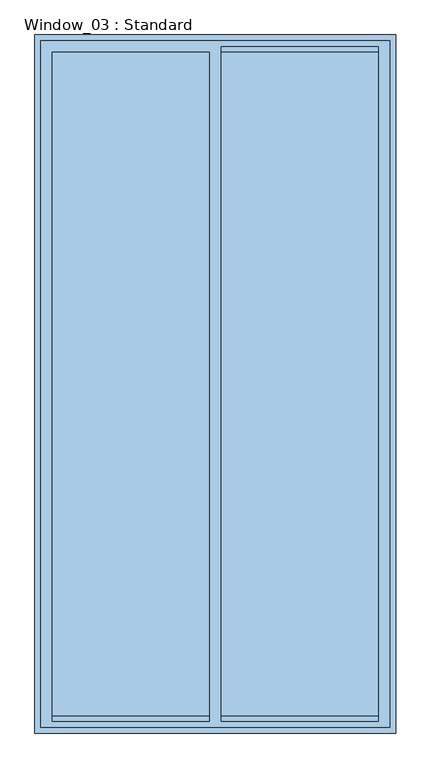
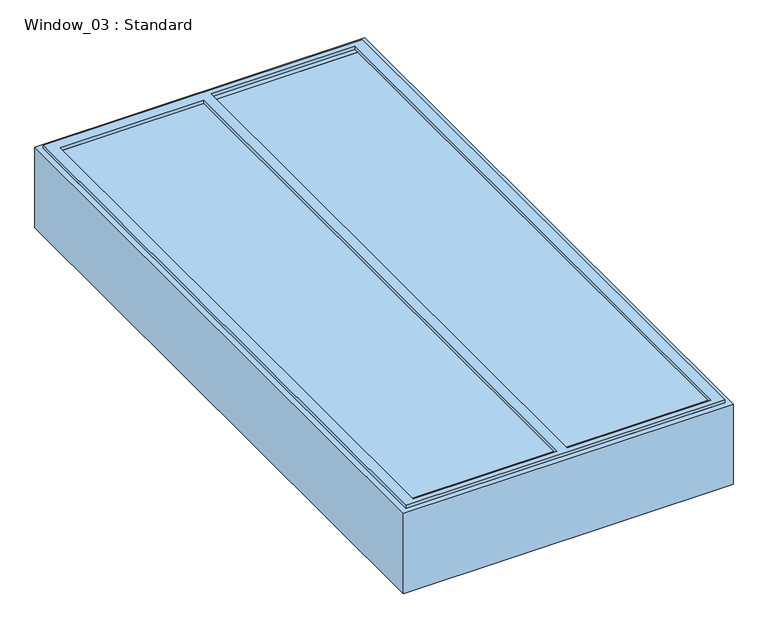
"""IFC4 building model written with IfcOpenShell, lengths in millimetres: window geometry, Window_03 : Standard."""

from ifc_helpers import new_model, si_unit, frame, origin, origin_with_axes, place, context, project, spatial, polyline, outline, extrude, source, transform, mapped, element, save


def window_03_standard_ac859b6b(model_context):
    return source(origin(), model_context, "Body", "SweptSolid", [
        extrude(outline(polyline([(-600.0, -1180.0), (-600.0, 1180.0), (600.0, 1180.0), (600.0, -1180.0), (-600.0, -1180.0)]), holes=[polyline([(-560.0, 1140.0), (-560.0, -1160.0), (-20.0, -1160.0), (-20.0, 1140.0), (-560.0, 1140.0)]), polyline([(20.0, 1160.0), (20.0, -1160.0), (560.0, -1160.0), (560.0, 1160.0), (20.0, 1160.0)])]), frame((0.0, 0.0, 315.094128), z_axis=(0.0, 0.0, 1.0), x_axis=(1.0, 0.0, 0.0)), (0.0, 0.0, 1.0), 17.0543259),
        extrude(outline(polyline([(-560.0, 1140.0), (560.0, 1140.0), (560.0, -1140.0), (-560.0, -1140.0), (-560.0, 1140.0)])), frame((0.0, 0.0, 315.094128), z_axis=(0.0, 0.0, 1.0), x_axis=(1.0, 0.0, 0.0)), (0.0, 0.0, 1.0), 4.905872),
        extrude(outline(polyline([(600.0, 1180.0), (600.0, -1180.0), (-600.0, -1180.0), (-600.0, 1180.0), (600.0, 1180.0)]), holes=[polyline([(-560.0, 1140.0), (-560.0, -1140.0), (560.0, -1140.0), (560.0, 1140.0), (-560.0, 1140.0)])]), frame((0.0, 0.0, 250.0), z_axis=(0.0, 0.0, 1.0), x_axis=(1.0, 0.0, 0.0)), (0.0, 0.0, 1.0), 70.0),
        extrude(outline(polyline([(620.0, 1200.0), (620.0, -1200.0), (-620.0, -1200.0), (-620.0, 1200.0), (620.0, 1200.0)]), holes=[polyline([(600.0, 1180.0), (-600.0, 1180.0), (-600.0, -1180.0), (600.0, -1180.0), (600.0, 1180.0)])]), origin_with_axes(), (0.0, 0.0, 1.0), 320.0),
    ])


if __name__ == "__main__":
    model = new_model("IFC4")
    model_context = context("Model", 3, world=origin())
    ifc_project = project(units=[si_unit("LENGTHUNIT", "METRE", prefix="MILLI")], contexts=[model_context])
    site = spatial("IfcSite", under=ifc_project)
    building = spatial("IfcBuilding", under=site)
    placement = place(None, origin())
    window_03_standard_shape = window_03_standard_ac859b6b(model_context)
    element("IfcWindow", 1, ObjectType="Window_03 : Standard", at=placement, inside=building, context=model_context, shape_type="MappedRepresentation", body=[
        mapped(window_03_standard_shape, transform((0.0, 0.0, 0.0), x_axis=(1.0, 0.0, 0.0), y_axis=(0.0, 1.0, 0.0), z_axis=(0.0, 0.0, 1.0))),
    ])
    save(model, "model.ifc")
